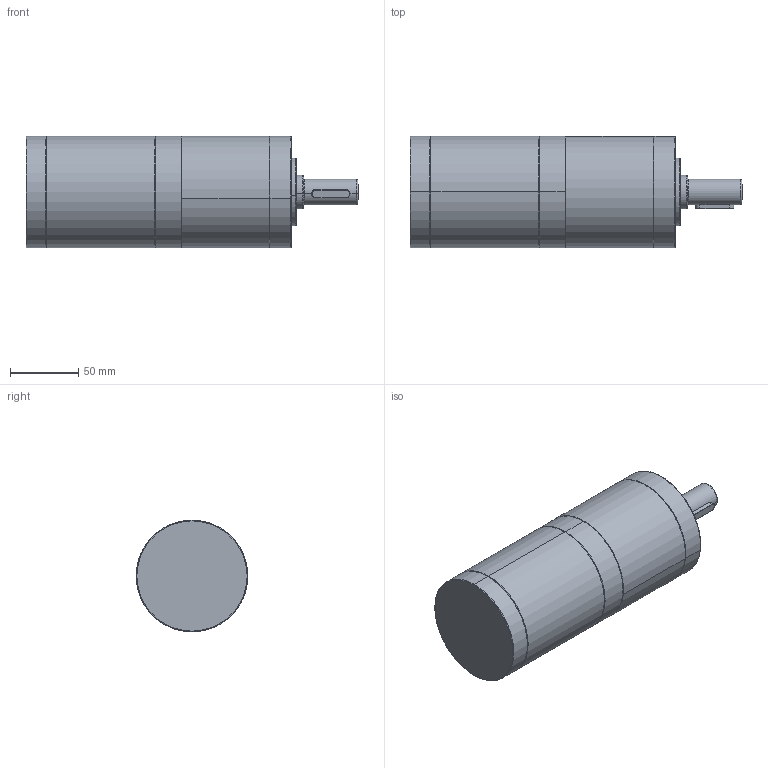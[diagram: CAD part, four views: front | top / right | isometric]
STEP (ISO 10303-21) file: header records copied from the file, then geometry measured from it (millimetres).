
FILE_DESCRIPTION (( 'STEP AP203' ), '1' );
FILE_NAME ('82BLD200W熬厒掀媼撰淕儂.STEP', '2021-07-16T05:10:32', ( '' ), ( '' ), 'SwSTEP 2.0', 'SolidWorks 2021', '' );
FILE_SCHEMA (( 'CONFIG_CONTROL_DESIGN' ));
Length unit declared in the file: millimetre
Products named in the file (3): 82; 82BLD200W熬厒掀媼撰淕儂; 82PN媼撰
Assembly tree (2 placements, depth 2):
  82BLD200W熬厒掀媼撰淕儂
    82
    82PN媼撰
Bounding box: 244 x 82 x 82 mm (x, y, z)
Volume: 1036173 mm3; surface area: 78422.8 mm2
Topology: 2 solids, 2 shells, 155 faces, 337 edges, 199 vertices
Faces by surface type: cylinder 50, plane 49, cone 32, bspline 20, torus 4
Entity records: 4704 total; most frequent: CARTESIAN_POINT 1106, DIRECTION 725, ORIENTED_EDGE 654, EDGE_CURVE 327, AXIS2_PLACEMENT_3D 282, VERTEX_POINT 199, EDGE_LOOP 178, LINE 161
